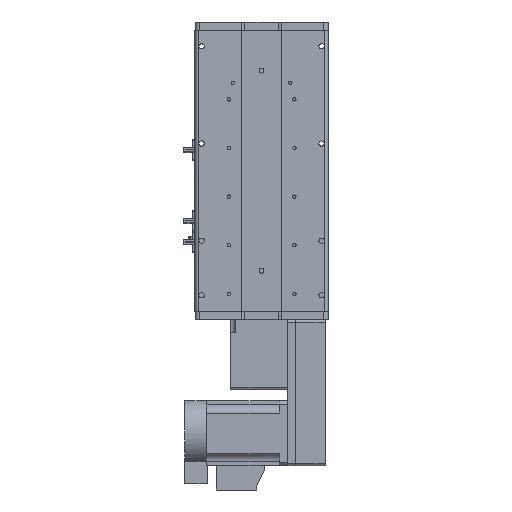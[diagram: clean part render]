
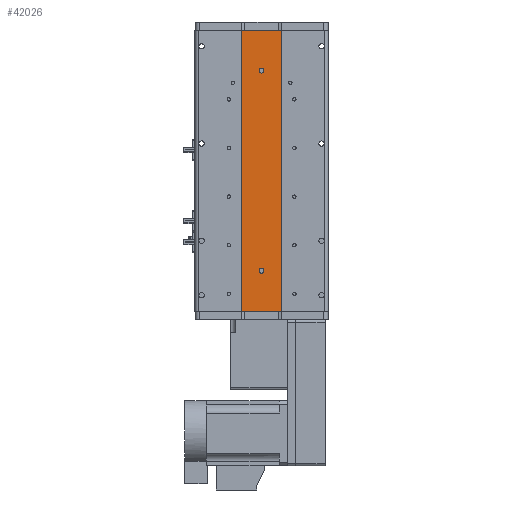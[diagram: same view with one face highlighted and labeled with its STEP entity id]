
A CAD part, front view. The second image highlights one B-rep face of the part: STEP entity #42026.
In plain terms, the highlighted planar face has unit normal (0, -1, 0).
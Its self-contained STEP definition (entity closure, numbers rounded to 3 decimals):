
#2988 = VERTEX_POINT ( 'NONE', #46290 ) ;
#3191 = VERTEX_POINT ( 'NONE', #41164 ) ;
#4737 = AXIS2_PLACEMENT_3D ( 'NONE', #34301, #6821, #38941 ) ;
#4811 = LINE ( 'NONE', #57755, #7682 ) ;
#5760 = VERTEX_POINT ( 'NONE', #43017 ) ;
#6021 = AXIS2_PLACEMENT_3D ( 'NONE', #39189, #11636, #43798 ) ;
#6401 = VERTEX_POINT ( 'NONE', #7604 ) ;
#6815 = DIRECTION ( 'NONE',  ( 0., 1., 0. ) ) ;
#6821 = DIRECTION ( 'NONE',  ( 0., 1., 0. ) ) ;
#7604 = CARTESIAN_POINT ( 'NONE',  ( 0., 1., 126.5 ) ) ;
#7682 = VECTOR ( 'NONE', #34795, 1000. ) ;
#7985 = CARTESIAN_POINT ( 'NONE',  ( 25., 1., -173.5 ) ) ;
#8859 = CARTESIAN_POINT ( 'NONE',  ( 0., 1., -126.5 ) ) ;
#8912 = CARTESIAN_POINT ( 'NONE',  ( 25., 1., 173.5 ) ) ;
#9754 = AXIS2_PLACEMENT_3D ( 'NONE', #50195, #22639, #54837 ) ;
#10591 = CIRCLE ( 'NONE', #9754, 3. ) ;
#10666 = CARTESIAN_POINT ( 'NONE',  ( 25., 1., 173.5 ) ) ;
#11071 = DIRECTION ( 'NONE',  ( 0., 0., 1. ) ) ;
#11198 = EDGE_LOOP ( 'NONE', ( #15019, #43343 ) ) ;
#11636 = DIRECTION ( 'NONE',  ( 0., 1., 0. ) ) ;
#12487 = EDGE_CURVE ( 'NONE', #12527, #29564, #25440, .T. ) ;
#12527 = VERTEX_POINT ( 'NONE', #46236 ) ;
#13286 = ORIENTED_EDGE ( 'NONE', *, *, #40616, .T. ) ;
#13532 = DIRECTION ( 'NONE',  ( 1., 0., 0. ) ) ;
#13835 = EDGE_LOOP ( 'NONE', ( #50155, #13286 ) ) ;
#14391 = EDGE_CURVE ( 'NONE', #37655, #5760, #37450, .T. ) ;
#15019 = ORIENTED_EDGE ( 'NONE', *, *, #14391, .T. ) ;
#15394 = CARTESIAN_POINT ( 'NONE',  ( 25., 1., 173.5 ) ) ;
#16980 = FACE_BOUND ( 'NONE', #13835, .T. ) ;
#17661 = EDGE_LOOP ( 'NONE', ( #56735, #47415, #45646, #52958 ) ) ;
#20038 = AXIS2_PLACEMENT_3D ( 'NONE', #34293, #6815, #38931 ) ;
#22639 = DIRECTION ( 'NONE',  ( 0., 1., 0. ) ) ;
#23656 = CIRCLE ( 'NONE', #6021, 3. ) ;
#25440 = LINE ( 'NONE', #27398, #48449 ) ;
#27398 = CARTESIAN_POINT ( 'NONE',  ( 25., 1., -173.5 ) ) ;
#27768 = FACE_OUTER_BOUND ( 'NONE', #17661, .T. ) ;
#28083 = CARTESIAN_POINT ( 'NONE',  ( -25., 1., 173.5 ) ) ;
#29564 = VERTEX_POINT ( 'NONE', #7985 ) ;
#32682 = DIRECTION ( 'NONE',  ( 0., 0., -1. ) ) ;
#33933 = PLANE ( 'NONE',  #37737 ) ;
#34293 = CARTESIAN_POINT ( 'NONE',  ( 0., 1., -123.5 ) ) ;
#34301 = CARTESIAN_POINT ( 'NONE',  ( 0., 1., -123.5 ) ) ;
#34795 = DIRECTION ( 'NONE',  ( 0., 0., -1. ) ) ;
#35001 = EDGE_CURVE ( 'NONE', #44386, #29564, #4811, .T. ) ;
#35599 = EDGE_CURVE ( 'NONE', #3191, #12527, #37792, .T. ) ;
#35652 = VECTOR ( 'NONE', #13532, 1000. ) ;
#37450 = CIRCLE ( 'NONE', #20038, 3. ) ;
#37655 = VERTEX_POINT ( 'NONE', #8859 ) ;
#37737 = AXIS2_PLACEMENT_3D ( 'NONE', #10666, #38600, #11071 ) ;
#37792 = LINE ( 'NONE', #28083, #48561 ) ;
#38600 = DIRECTION ( 'NONE',  ( 0., 1., 0. ) ) ;
#38931 = DIRECTION ( 'NONE',  ( 0., 0., 1. ) ) ;
#38941 = DIRECTION ( 'NONE',  ( 0., 0., 1. ) ) ;
#39189 = CARTESIAN_POINT ( 'NONE',  ( 0., 1., 123.5 ) ) ;
#40109 = CIRCLE ( 'NONE', #4737, 3. ) ;
#40616 = EDGE_CURVE ( 'NONE', #6401, #2988, #23656, .T. ) ;
#41164 = CARTESIAN_POINT ( 'NONE',  ( -25., 1., 173.5 ) ) ;
#42026 = ADVANCED_FACE ( 'NONE', ( #49331, #16980, #27768 ), #33933, .F. ) ;
#43017 = CARTESIAN_POINT ( 'NONE',  ( 0., 1., -120.5 ) ) ;
#43343 = ORIENTED_EDGE ( 'NONE', *, *, #51282, .T. ) ;
#43798 = DIRECTION ( 'NONE',  ( 0., 0., 1. ) ) ;
#44386 = VERTEX_POINT ( 'NONE', #15394 ) ;
#45646 = ORIENTED_EDGE ( 'NONE', *, *, #52162, .F. ) ;
#46236 = CARTESIAN_POINT ( 'NONE',  ( -25., 1., -173.5 ) ) ;
#46290 = CARTESIAN_POINT ( 'NONE',  ( 0., 1., 120.5 ) ) ;
#47415 = ORIENTED_EDGE ( 'NONE', *, *, #35001, .F. ) ;
#47888 = LINE ( 'NONE', #8912, #35652 ) ;
#48449 = VECTOR ( 'NONE', #59606, 1000. ) ;
#48561 = VECTOR ( 'NONE', #32682, 1000. ) ;
#49331 = FACE_BOUND ( 'NONE', #11198, .T. ) ;
#50155 = ORIENTED_EDGE ( 'NONE', *, *, #51533, .T. ) ;
#50195 = CARTESIAN_POINT ( 'NONE',  ( 0., 1., 123.5 ) ) ;
#51282 = EDGE_CURVE ( 'NONE', #5760, #37655, #40109, .T. ) ;
#51533 = EDGE_CURVE ( 'NONE', #2988, #6401, #10591, .T. ) ;
#52162 = EDGE_CURVE ( 'NONE', #3191, #44386, #47888, .T. ) ;
#52958 = ORIENTED_EDGE ( 'NONE', *, *, #35599, .T. ) ;
#54837 = DIRECTION ( 'NONE',  ( 0., 0., 1. ) ) ;
#56735 = ORIENTED_EDGE ( 'NONE', *, *, #12487, .T. ) ;
#57755 = CARTESIAN_POINT ( 'NONE',  ( 25., 1., 173.5 ) ) ;
#59606 = DIRECTION ( 'NONE',  ( 1., 0., 0. ) ) ;
